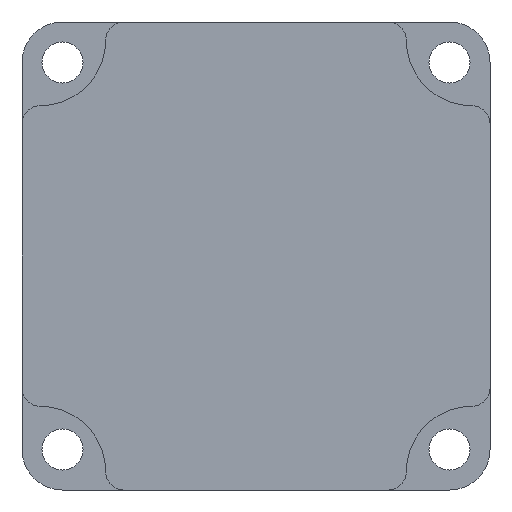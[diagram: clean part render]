
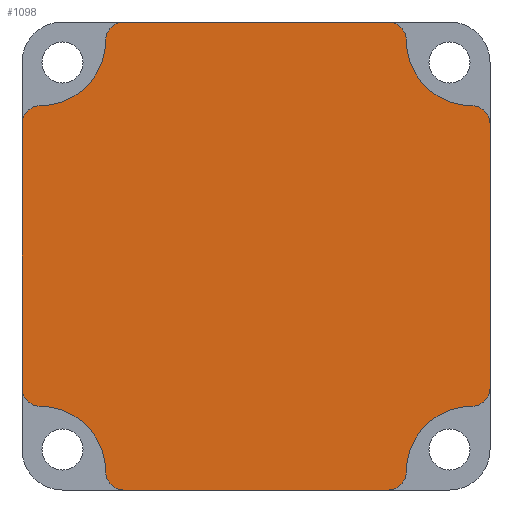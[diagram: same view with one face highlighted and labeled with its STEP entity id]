
A CAD part, front view. The second image highlights one B-rep face of the part: STEP entity #1098.
In plain terms, the highlighted planar face has unit normal (0, -1, 0).
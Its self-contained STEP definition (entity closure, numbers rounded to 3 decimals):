
#50 = CIRCLE ( 'NONE', #965, 8. ) ;
#73 = CARTESIAN_POINT ( 'NONE',  ( 0., -119., -57. ) ) ;
#144 = VERTEX_POINT ( 'NONE', #1722 ) ;
#150 = AXIS2_PLACEMENT_3D ( 'NONE', #589, #692, #1653 ) ;
#200 = DIRECTION ( 'NONE',  ( 0., 0., 1. ) ) ;
#238 = EDGE_CURVE ( 'NONE', #552, #2349, #1360, .T. ) ;
#257 = CIRCLE ( 'NONE', #1482, 2.2 ) ;
#265 = DIRECTION ( 'NONE',  ( 0., 1., 0. ) ) ;
#292 = CARTESIAN_POINT ( 'NONE',  ( 2.2, -119., -12.4 ) ) ;
#301 = LINE ( 'NONE', #2089, #686 ) ;
#318 = CARTESIAN_POINT ( 'NONE',  ( 54.8, -119., -12.4 ) ) ;
#323 = EDGE_CURVE ( 'NONE', #2349, #1086, #1053, .T. ) ;
#326 = CIRCLE ( 'NONE', #583, 8. ) ;
#342 = DIRECTION ( 'NONE',  ( 0., 0., -1. ) ) ;
#373 = EDGE_CURVE ( 'NONE', #1710, #899, #1451, .T. ) ;
#410 = DIRECTION ( 'NONE',  ( 0., 0., -1. ) ) ;
#416 = AXIS2_PLACEMENT_3D ( 'NONE', #1313, #2463, #554 ) ;
#420 = CIRCLE ( 'NONE', #416, 8. ) ;
#425 = CARTESIAN_POINT ( 'NONE',  ( 10.2, -119., -54.8 ) ) ;
#473 = CARTESIAN_POINT ( 'NONE',  ( 0., -119., -44.6 ) ) ;
#479 = DIRECTION ( 'NONE',  ( 0., 0., 1. ) ) ;
#487 = DIRECTION ( 'NONE',  ( 0., 1., 0. ) ) ;
#490 = VERTEX_POINT ( 'NONE', #425 ) ;
#491 = EDGE_CURVE ( 'NONE', #1796, #726, #257, .T. ) ;
#515 = CARTESIAN_POINT ( 'NONE',  ( 0., -119., 0. ) ) ;
#533 = CIRCLE ( 'NONE', #2263, 8. ) ;
#541 = CARTESIAN_POINT ( 'NONE',  ( 46.8, -119., -2.2 ) ) ;
#552 = VERTEX_POINT ( 'NONE', #1261 ) ;
#554 = DIRECTION ( 'NONE',  ( 0., 0., 1. ) ) ;
#572 = EDGE_CURVE ( 'NONE', #1764, #144, #575, .T. ) ;
#575 = CIRCLE ( 'NONE', #150, 2.2 ) ;
#577 = VERTEX_POINT ( 'NONE', #1179 ) ;
#582 = CIRCLE ( 'NONE', #868, 2.2 ) ;
#583 = AXIS2_PLACEMENT_3D ( 'NONE', #2333, #1142, #200 ) ;
#589 = CARTESIAN_POINT ( 'NONE',  ( 44.6, -119., -54.8 ) ) ;
#686 = VECTOR ( 'NONE', #1911, 1000. ) ;
#692 = DIRECTION ( 'NONE',  ( 0., 1., 0. ) ) ;
#696 = AXIS2_PLACEMENT_3D ( 'NONE', #2091, #2253, #342 ) ;
#726 = VERTEX_POINT ( 'NONE', #1241 ) ;
#760 = DIRECTION ( 'NONE',  ( 0., -1., 0. ) ) ;
#810 = CARTESIAN_POINT ( 'NONE',  ( 0., -119., 0. ) ) ;
#840 = ORIENTED_EDGE ( 'NONE', *, *, #1348, .F. ) ;
#868 = AXIS2_PLACEMENT_3D ( 'NONE', #1586, #265, #2327 ) ;
#872 = AXIS2_PLACEMENT_3D ( 'NONE', #1257, #1450, #1467 ) ;
#899 = VERTEX_POINT ( 'NONE', #1791 ) ;
#932 = CARTESIAN_POINT ( 'NONE',  ( 54.8, -119., -2.2 ) ) ;
#933 = VECTOR ( 'NONE', #1285, 1000. ) ;
#957 = EDGE_CURVE ( 'NONE', #1064, #490, #582, .T. ) ;
#965 = AXIS2_PLACEMENT_3D ( 'NONE', #1741, #760, #2130 ) ;
#985 = ORIENTED_EDGE ( 'NONE', *, *, #957, .F. ) ;
#1033 = ORIENTED_EDGE ( 'NONE', *, *, #1665, .F. ) ;
#1041 = DIRECTION ( 'NONE',  ( 0., 0., 1. ) ) ;
#1053 = CIRCLE ( 'NONE', #2429, 2.2 ) ;
#1064 = VERTEX_POINT ( 'NONE', #2274 ) ;
#1082 = ORIENTED_EDGE ( 'NONE', *, *, #1706, .F. ) ;
#1086 = VERTEX_POINT ( 'NONE', #541 ) ;
#1098 = ADVANCED_FACE ( 'NONE', ( #1377 ), #2057, .T. ) ;
#1142 = DIRECTION ( 'NONE',  ( 0., -1., 0. ) ) ;
#1158 = CIRCLE ( 'NONE', #1821, 2.2 ) ;
#1160 = ORIENTED_EDGE ( 'NONE', *, *, #238, .F. ) ;
#1172 = DIRECTION ( 'NONE',  ( 0., -1., 0. ) ) ;
#1179 = CARTESIAN_POINT ( 'NONE',  ( 2.2, -119., -46.8 ) ) ;
#1192 = ORIENTED_EDGE ( 'NONE', *, *, #491, .F. ) ;
#1235 = DIRECTION ( 'NONE',  ( -1., 0., 0. ) ) ;
#1238 = DIRECTION ( 'NONE',  ( 0., 1., 0. ) ) ;
#1241 = CARTESIAN_POINT ( 'NONE',  ( 57., -119., -12.4 ) ) ;
#1247 = ORIENTED_EDGE ( 'NONE', *, *, #323, .F. ) ;
#1257 = CARTESIAN_POINT ( 'NONE',  ( 2.2, -119., -44.6 ) ) ;
#1261 = CARTESIAN_POINT ( 'NONE',  ( 12.4, -119., 0. ) ) ;
#1272 = DIRECTION ( 'NONE',  ( 0., 0., 1. ) ) ;
#1285 = DIRECTION ( 'NONE',  ( 0., 0., 1. ) ) ;
#1313 = CARTESIAN_POINT ( 'NONE',  ( 2.2, -119., -2.2 ) ) ;
#1320 = VERTEX_POINT ( 'NONE', #2177 ) ;
#1348 = EDGE_CURVE ( 'NONE', #490, #577, #50, .T. ) ;
#1360 = LINE ( 'NONE', #515, #1814 ) ;
#1377 = FACE_OUTER_BOUND ( 'NONE', #2039, .T. ) ;
#1407 = DIRECTION ( 'NONE',  ( 1., 0., 0. ) ) ;
#1421 = ORIENTED_EDGE ( 'NONE', *, *, #1804, .F. ) ;
#1443 = VECTOR ( 'NONE', #1235, 1000. ) ;
#1450 = DIRECTION ( 'NONE',  ( 0., 1., 0. ) ) ;
#1451 = LINE ( 'NONE', #810, #933 ) ;
#1460 = ORIENTED_EDGE ( 'NONE', *, *, #1988, .F. ) ;
#1467 = DIRECTION ( 'NONE',  ( 0., 0., -1. ) ) ;
#1477 = EDGE_CURVE ( 'NONE', #726, #2126, #301, .T. ) ;
#1482 = AXIS2_PLACEMENT_3D ( 'NONE', #318, #2312, #1976 ) ;
#1540 = DIRECTION ( 'NONE',  ( 0., 1., 0. ) ) ;
#1586 = CARTESIAN_POINT ( 'NONE',  ( 12.4, -119., -54.8 ) ) ;
#1605 = CARTESIAN_POINT ( 'NONE',  ( 44.6, -119., 0. ) ) ;
#1634 = CARTESIAN_POINT ( 'NONE',  ( 57., -119., -44.6 ) ) ;
#1653 = DIRECTION ( 'NONE',  ( 0., 0., -1. ) ) ;
#1661 = VERTEX_POINT ( 'NONE', #1751 ) ;
#1665 = EDGE_CURVE ( 'NONE', #1320, #1764, #326, .T. ) ;
#1666 = CARTESIAN_POINT ( 'NONE',  ( 44.6, -119., -2.2 ) ) ;
#1677 = ORIENTED_EDGE ( 'NONE', *, *, #2296, .F. ) ;
#1689 = AXIS2_PLACEMENT_3D ( 'NONE', #1929, #1540, #2069 ) ;
#1706 = EDGE_CURVE ( 'NONE', #899, #1930, #1158, .T. ) ;
#1710 = VERTEX_POINT ( 'NONE', #473 ) ;
#1716 = CARTESIAN_POINT ( 'NONE',  ( 54.8, -119., -10.2 ) ) ;
#1722 = CARTESIAN_POINT ( 'NONE',  ( 44.6, -119., -57. ) ) ;
#1741 = CARTESIAN_POINT ( 'NONE',  ( 2.2, -119., -54.8 ) ) ;
#1751 = CARTESIAN_POINT ( 'NONE',  ( 10.2, -119., -2.2 ) ) ;
#1763 = CIRCLE ( 'NONE', #1689, 2.2 ) ;
#1764 = VERTEX_POINT ( 'NONE', #2149 ) ;
#1784 = EDGE_CURVE ( 'NONE', #2126, #1320, #2135, .T. ) ;
#1791 = CARTESIAN_POINT ( 'NONE',  ( 0., -119., -12.4 ) ) ;
#1796 = VERTEX_POINT ( 'NONE', #1716 ) ;
#1804 = EDGE_CURVE ( 'NONE', #1086, #1796, #533, .T. ) ;
#1811 = ORIENTED_EDGE ( 'NONE', *, *, #1477, .F. ) ;
#1814 = VECTOR ( 'NONE', #1407, 1000. ) ;
#1821 = AXIS2_PLACEMENT_3D ( 'NONE', #292, #1238, #1041 ) ;
#1854 = CIRCLE ( 'NONE', #872, 2.2 ) ;
#1862 = EDGE_CURVE ( 'NONE', #1930, #1661, #420, .T. ) ;
#1895 = LINE ( 'NONE', #73, #1443 ) ;
#1911 = DIRECTION ( 'NONE',  ( 0., 0., -1. ) ) ;
#1929 = CARTESIAN_POINT ( 'NONE',  ( 12.4, -119., -2.2 ) ) ;
#1930 = VERTEX_POINT ( 'NONE', #2055 ) ;
#1967 = ORIENTED_EDGE ( 'NONE', *, *, #2131, .F. ) ;
#1976 = DIRECTION ( 'NONE',  ( 0., 0., -1. ) ) ;
#1984 = ORIENTED_EDGE ( 'NONE', *, *, #1784, .F. ) ;
#1988 = EDGE_CURVE ( 'NONE', #1661, #552, #1763, .T. ) ;
#1999 = AXIS2_PLACEMENT_3D ( 'NONE', #2234, #2374, #1272 ) ;
#2039 = EDGE_LOOP ( 'NONE', ( #985, #1677, #2046, #1033, #1984, #1811, #1192, #1421, #1247, #1160, #1460, #2048, #1082, #2136, #1967, #840 ) ) ;
#2046 = ORIENTED_EDGE ( 'NONE', *, *, #572, .F. ) ;
#2048 = ORIENTED_EDGE ( 'NONE', *, *, #1862, .F. ) ;
#2055 = CARTESIAN_POINT ( 'NONE',  ( 2.2, -119., -10.2 ) ) ;
#2057 = PLANE ( 'NONE',  #696 ) ;
#2069 = DIRECTION ( 'NONE',  ( 0., 0., -1. ) ) ;
#2089 = CARTESIAN_POINT ( 'NONE',  ( 57., -119., 0. ) ) ;
#2091 = CARTESIAN_POINT ( 'NONE',  ( 0., -119., 0. ) ) ;
#2126 = VERTEX_POINT ( 'NONE', #1634 ) ;
#2130 = DIRECTION ( 'NONE',  ( 0., 0., 1. ) ) ;
#2131 = EDGE_CURVE ( 'NONE', #577, #1710, #1854, .T. ) ;
#2135 = CIRCLE ( 'NONE', #1999, 2.2 ) ;
#2136 = ORIENTED_EDGE ( 'NONE', *, *, #373, .F. ) ;
#2149 = CARTESIAN_POINT ( 'NONE',  ( 46.8, -119., -54.8 ) ) ;
#2177 = CARTESIAN_POINT ( 'NONE',  ( 54.8, -119., -46.8 ) ) ;
#2234 = CARTESIAN_POINT ( 'NONE',  ( 54.8, -119., -44.6 ) ) ;
#2253 = DIRECTION ( 'NONE',  ( 0., -1., 0. ) ) ;
#2263 = AXIS2_PLACEMENT_3D ( 'NONE', #932, #1172, #410 ) ;
#2274 = CARTESIAN_POINT ( 'NONE',  ( 12.4, -119., -57. ) ) ;
#2296 = EDGE_CURVE ( 'NONE', #144, #1064, #1895, .T. ) ;
#2312 = DIRECTION ( 'NONE',  ( 0., 1., 0. ) ) ;
#2327 = DIRECTION ( 'NONE',  ( 0., 0., 1. ) ) ;
#2333 = CARTESIAN_POINT ( 'NONE',  ( 54.8, -119., -54.8 ) ) ;
#2349 = VERTEX_POINT ( 'NONE', #1605 ) ;
#2374 = DIRECTION ( 'NONE',  ( 0., 1., 0. ) ) ;
#2429 = AXIS2_PLACEMENT_3D ( 'NONE', #1666, #487, #479 ) ;
#2463 = DIRECTION ( 'NONE',  ( 0., -1., 0. ) ) ;
